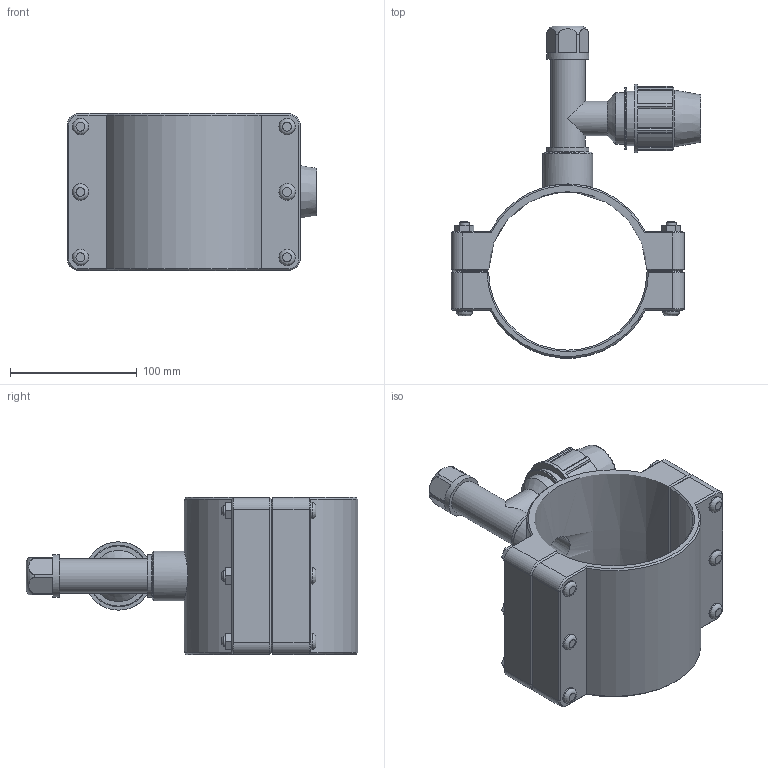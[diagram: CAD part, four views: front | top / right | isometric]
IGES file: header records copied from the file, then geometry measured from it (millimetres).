
Global section: file name: 165400125025_165406125025.ipt; native system: Autodesk Inventor 2015; preprocessor: unknown; author: KIM; date: 20170618.093926; units: millimetre
Bounding box: 197 x 262 x 124 mm (x, y, z)
Volume: 845178 mm3; surface area: 186323.1 mm2
Topology: 1 solids, 1 shells, 260 faces, 648 edges, 422 vertices
Faces by surface type: plane 163, cylinder 48, cone 30, revolution 19
Full cylindrical faces by diameter (mm): 8 x6, 13 x12, 27.262 x2, 30.291 x1, 33.32 x2, 39.378 x1, 40.5 x1, 43.2 x1, 48.6 x1, 54 x1
